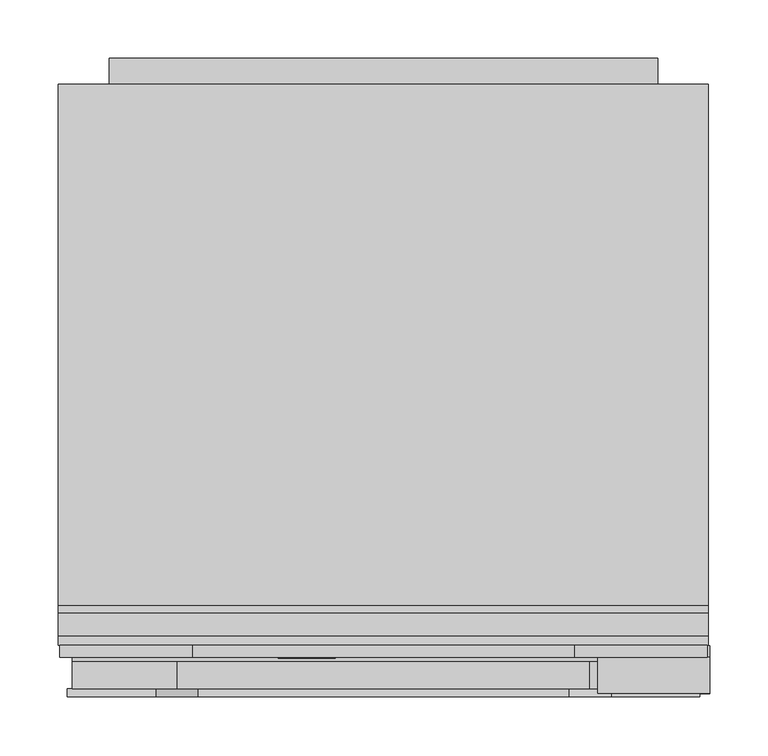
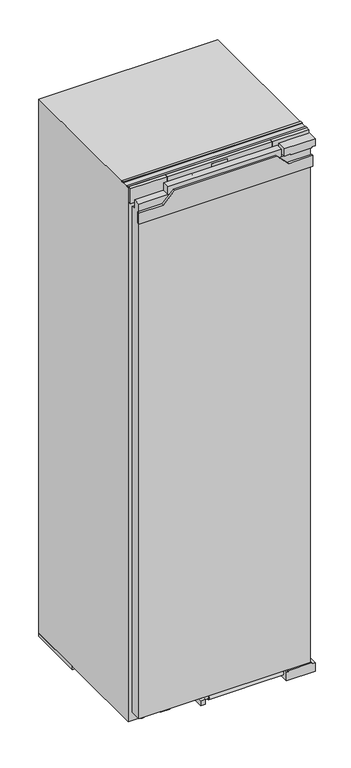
"""IFC4 building model written with IfcOpenShell, lengths in millimetres: proxy geometry, 12444950_CH_K7778C_RE : 36777800_CH_12444950_K7778C_RE."""

from ifc_helpers import new_model, si_unit, point, frame, frame_2d, origin, origin_with_axes, place, context, project, spatial, polyline, circle_curve, ellipse_curve, trimmed, segment, composite_curve, outline, extrude, faceted_brep, source, transform, mapped, element, save
from ifc_brep_helpers import plane_surface, cylinder_surface, revolved_surface, extruded_surface, advanced_brep


def specialty_equipment_7dd4978d(model_context):
    return source(origin(), model_context, "Body", "SolidModel", [
        advanced_brep(
        [(-46.64, 33.0, 1742.896), (-46.64, 33.0, 1743.704), (-41.288, 33.0, 1743.704), (-50.6, 33.0, 1743.704), (-48.4, 33.0, 1741.0), (-41.424, 33.0, 1742.896), (-43.84, 33.0, 1742.896), (-45.744, 33.0, 1742.0), (-46.64, 33.0, 1744.728), (-46.64, 33.0, 1745.6), (-45.272, 33.0, 1745.6), (-45.272, 33.0, 1744.728), (-46.64, 34.0, 1742.896), (-45.744, 34.0, 1742.0), (-43.84, 34.0, 1742.896), (-41.424, 34.0, 1742.896), (-48.4, 34.0, 1741.0), (-50.6, 34.0, 1743.704), (-41.288, 34.0, 1743.704), (-46.64, 34.0, 1743.704), (-46.64, 34.0, 1744.728), (-45.272, 34.0, 1744.728), (-45.272, 34.0, 1745.6), (-46.64, 34.0, 1745.6)],
        [
            (0, 1),
            (1, 2),
            (2, 3, ellipse_curve(frame((-45.944, 33.0, 1743.704), z_axis=(0.0, -1.0, 0.0), x_axis=(-1.0, 0.0, 0.0)), 4.656, 3.848)),
            (3, 4, circle_curve(frame((-47.5039564, 33.0, 1743.976), z_axis=(0.0, -1.0, 0.0), x_axis=(0.0, 0.0, -1.0)), 3.1079688)),
            (4, 5, circle_curve(frame((-46.0372064, 33.0, 1746.088), z_axis=(0.0, -1.0, 0.0), x_axis=(0.0, 0.0, -1.0)), 5.6098607)),
            (5, 6),
            (6, 7, circle_curve(frame((-45.3529412, 33.0, 1743.64), z_axis=(0.0, 1.0, 0.0), x_axis=(0.0, 0.0, -1.0)), 1.6859795)),
            (7, 0, circle_curve(frame((-45.744, 33.0, 1742.896), z_axis=(0.0, 1.0, 0.0), x_axis=(0.0, 0.0, -1.0)), 0.896)),
            (8, 9),
            (9, 10, circle_curve(frame((-45.956, 33.0, 1745.6), z_axis=(0.0, 1.0, 0.0), x_axis=(0.0, 0.0, -1.0)), 0.684)),
            (10, 11),
            (11, 8),
            (12, 13, circle_curve(frame((-45.744, 34.0, 1742.896), z_axis=(0.0, -1.0, 0.0), x_axis=(0.0, 0.0, -1.0)), 0.896)),
            (13, 14, circle_curve(frame((-45.3529412, 34.0, 1743.64), z_axis=(0.0, -1.0, 0.0), x_axis=(0.0, 0.0, -1.0)), 1.6859795)),
            (14, 15),
            (15, 16, circle_curve(frame((-46.0372064, 34.0, 1746.088), z_axis=(0.0, 1.0, 0.0), x_axis=(0.0, 0.0, -1.0)), 5.6098607)),
            (16, 17, circle_curve(frame((-47.5039564, 34.0, 1743.976), z_axis=(0.0, 1.0, 0.0), x_axis=(0.0, 0.0, -1.0)), 3.1079688)),
            (17, 18, ellipse_curve(frame((-45.944, 34.0, 1743.704), z_axis=(0.0, 1.0, 0.0), x_axis=(-1.0, 0.0, 0.0)), 4.656, 3.848)),
            (18, 19),
            (19, 12),
            (20, 21),
            (21, 22),
            (22, 23, circle_curve(frame((-45.956, 34.0, 1745.6), z_axis=(0.0, -1.0, 0.0), x_axis=(0.0, 0.0, -1.0)), 0.684)),
            (23, 20),
            (0, 12),
            (19, 1),
            (18, 2),
            (5, 15),
            (14, 6),
            (17, 3),
            (13, 7),
            (16, 4),
            (8, 20),
            (23, 9),
            (22, 10),
            (21, 11),
        ],
        [
            plane_surface(frame((-46.64, 33.0, 1743.704), z_axis=(0.0, -1.0, 0.0), x_axis=(0.0, 0.0, 1.0))),
            plane_surface(frame((-46.64, 34.0, 1743.704), z_axis=(0.0, 1.0, 0.0), x_axis=(0.0, 0.0, -1.0))),
            plane_surface(frame((-46.64, 33.0, 1742.896), z_axis=(1.0, 0.0, 0.0), x_axis=(0.0, 1.0, 0.0))),
            plane_surface(frame((-46.64, 33.0, 1743.704), z_axis=(0.0, 0.0, -1.0), x_axis=(0.0, 1.0, 0.0))),
            plane_surface(frame((-41.424, 33.0, 1742.896), z_axis=(0.0, 0.0, 1.0), x_axis=(0.0, 1.0, 0.0))),
            extruded_surface(trimmed(ellipse_curve(frame((-45.944, 35.0, 1743.704), z_axis=(0.0, -1.0, 0.0), x_axis=(-1.0, 0.0, 0.0)), 4.656, 3.848), [point((-41.288, 35.0, 1743.704))], [point((-50.6, 35.0, 1743.704))], True, "CARTESIAN"), (0.0, -1.0, 0.0), 1.0),
            revolved_surface(polyline([(-45.3529412, 34.0, 1741.9540205), (-45.3529412, 33.0, 1741.9540205)]), (-45.3529412, 34.0, 1743.64), (0.0, 1.0, 0.0)),
            revolved_surface(polyline([(-45.744, 34.0, 1742.0), (-45.744, 33.0, 1742.0)]), (-45.744, 34.0, 1742.896), (0.0, 1.0, 0.0)),
            cylinder_surface(frame((-47.5039564, 34.0, 1743.976), z_axis=(0.0, -1.0, 0.0), x_axis=(0.0, 0.0, -1.0)), 3.1079688),
            cylinder_surface(frame((-46.0372064, 34.0, 1746.088), z_axis=(0.0, -1.0, 0.0), x_axis=(0.0, 0.0, -1.0)), 5.6098607),
            plane_surface(frame((-46.64, 33.0, 1744.728), z_axis=(1.0, 0.0, 0.0), x_axis=(0.0, 1.0, 0.0))),
            revolved_surface(polyline([(-45.956, 34.0, 1744.916), (-45.956, 33.0, 1744.916)]), (-45.956, 34.0, 1745.6), (0.0, 1.0, 0.0)),
            plane_surface(frame((-45.272, 33.0, 1745.6), z_axis=(-1.0, 0.0, 0.0), x_axis=(0.0, 1.0, 0.0))),
            plane_surface(frame((-45.272, 33.0, 1744.728), z_axis=(0.0, 0.0, 1.0), x_axis=(0.0, 1.0, 0.0))),
        ],
        [
            (0, [[1, 2, 3, 4, 5, 6, 7, 8], [9, 10, 11, 12]]),
            (1, [[13, 14, 15, 16, 17, 18, 19, 20], [21, 22, 23, 24]]),
            (2, [[-1, 25, -20, 26]]),
            (3, [[-2, -26, -19, 27]]),
            (4, [[-6, 28, -15, 29]]),
            (5, [[-3, -27, -18, 30]]),
            (6, [[-7, -29, -14, 31]]),
            (7, [[-8, -31, -13, -25]]),
            (8, [[-4, -30, -17, 32]]),
            (9, [[-5, -32, -16, -28]]),
            (10, [[-9, 33, -24, 34]]),
            (11, [[-10, -34, -23, 35]]),
            (12, [[-11, -35, -22, 36]]),
            (13, [[-12, -36, -21, -33]]),
        ],
    ),
        advanced_brep(
        [(-63.336, 33.0, 1742.896), (-63.336, 33.0, 1743.704), (-57.984, 33.0, 1743.704), (-67.296, 33.0, 1743.704), (-65.096, 33.0, 1741.0), (-58.12, 33.0, 1742.896), (-60.536, 33.0, 1742.896), (-62.44, 33.0, 1742.0), (-63.336, 33.0, 1744.728), (-63.336, 33.0, 1745.6), (-61.968, 33.0, 1745.6), (-61.968, 33.0, 1744.728), (-63.336, 34.0, 1742.896), (-62.44, 34.0, 1742.0), (-60.536, 34.0, 1742.896), (-58.12, 34.0, 1742.896), (-65.096, 34.0, 1741.0), (-67.296, 34.0, 1743.704), (-57.984, 34.0, 1743.704), (-63.336, 34.0, 1743.704), (-63.336, 34.0, 1744.728), (-61.968, 34.0, 1744.728), (-61.968, 34.0, 1745.6), (-63.336, 34.0, 1745.6)],
        [
            (0, 1),
            (1, 2),
            (2, 3, ellipse_curve(frame((-62.64, 33.0, 1743.704), z_axis=(0.0, -1.0, 0.0), x_axis=(-1.0, 0.0, 0.0)), 4.656, 3.848)),
            (3, 4, circle_curve(frame((-64.1999564, 33.0, 1743.976), z_axis=(0.0, -1.0, 0.0), x_axis=(0.0, 0.0, -1.0)), 3.1079688)),
            (4, 5, circle_curve(frame((-62.7332064, 33.0, 1746.088), z_axis=(0.0, -1.0, 0.0), x_axis=(0.0, 0.0, -1.0)), 5.6098607)),
            (5, 6),
            (6, 7, circle_curve(frame((-62.0489412, 33.0, 1743.64), z_axis=(0.0, 1.0, 0.0), x_axis=(0.0, 0.0, -1.0)), 1.6859795)),
            (7, 0, circle_curve(frame((-62.44, 33.0, 1742.896), z_axis=(0.0, 1.0, 0.0), x_axis=(0.0, 0.0, -1.0)), 0.896)),
            (8, 9),
            (9, 10, circle_curve(frame((-62.652, 33.0, 1745.6), z_axis=(0.0, 1.0, 0.0), x_axis=(0.0, 0.0, -1.0)), 0.684)),
            (10, 11),
            (11, 8),
            (12, 13, circle_curve(frame((-62.44, 34.0, 1742.896), z_axis=(0.0, -1.0, 0.0), x_axis=(0.0, 0.0, -1.0)), 0.896)),
            (13, 14, circle_curve(frame((-62.0489412, 34.0, 1743.64), z_axis=(0.0, -1.0, 0.0), x_axis=(0.0, 0.0, -1.0)), 1.6859795)),
            (14, 15),
            (15, 16, circle_curve(frame((-62.7332064, 34.0, 1746.088), z_axis=(0.0, 1.0, 0.0), x_axis=(0.0, 0.0, -1.0)), 5.6098607)),
            (16, 17, circle_curve(frame((-64.1999564, 34.0, 1743.976), z_axis=(0.0, 1.0, 0.0), x_axis=(0.0, 0.0, -1.0)), 3.1079688)),
            (17, 18, ellipse_curve(frame((-62.64, 34.0, 1743.704), z_axis=(0.0, 1.0, 0.0), x_axis=(-1.0, 0.0, 0.0)), 4.656, 3.848)),
            (18, 19),
            (19, 12),
            (20, 21),
            (21, 22),
            (22, 23, circle_curve(frame((-62.652, 34.0, 1745.6), z_axis=(0.0, -1.0, 0.0), x_axis=(0.0, 0.0, -1.0)), 0.684)),
            (23, 20),
            (0, 12),
            (19, 1),
            (18, 2),
            (5, 15),
            (14, 6),
            (17, 3),
            (13, 7),
            (16, 4),
            (8, 20),
            (23, 9),
            (22, 10),
            (21, 11),
        ],
        [
            plane_surface(frame((-63.336, 33.0, 1743.704), z_axis=(0.0, -1.0, 0.0), x_axis=(0.0, 0.0, 1.0))),
            plane_surface(frame((-63.336, 34.0, 1743.704), z_axis=(0.0, 1.0, 0.0), x_axis=(0.0, 0.0, -1.0))),
            plane_surface(frame((-63.336, 33.0, 1742.896), z_axis=(1.0, 0.0, 0.0), x_axis=(0.0, 1.0, 0.0))),
            plane_surface(frame((-63.336, 33.0, 1743.704), z_axis=(0.0, 0.0, -1.0), x_axis=(0.0, 1.0, 0.0))),
            plane_surface(frame((-58.12, 33.0, 1742.896), z_axis=(0.0, 0.0, 1.0), x_axis=(0.0, 1.0, 0.0))),
            extruded_surface(trimmed(ellipse_curve(frame((-62.64, 35.0, 1743.704), z_axis=(0.0, -1.0, 0.0), x_axis=(-1.0, 0.0, 0.0)), 4.656, 3.848), [point((-57.984, 35.0, 1743.704))], [point((-67.296, 35.0, 1743.704))], True, "CARTESIAN"), (0.0, -1.0, 0.0), 1.0),
            revolved_surface(polyline([(-62.0489412, 34.0, 1741.9540205), (-62.0489412, 33.0, 1741.9540205)]), (-62.0489412, 34.0, 1743.64), (0.0, 1.0, 0.0)),
            revolved_surface(polyline([(-62.44, 34.0, 1742.0), (-62.44, 33.0, 1742.0)]), (-62.44, 34.0, 1742.896), (0.0, 1.0, 0.0)),
            cylinder_surface(frame((-64.1999564, 34.0, 1743.976), z_axis=(0.0, -1.0, 0.0), x_axis=(0.0, 0.0, -1.0)), 3.1079688),
            cylinder_surface(frame((-62.7332064, 34.0, 1746.088), z_axis=(0.0, -1.0, 0.0), x_axis=(0.0, 0.0, -1.0)), 5.6098607),
            plane_surface(frame((-63.336, 33.0, 1744.728), z_axis=(1.0, 0.0, 0.0), x_axis=(0.0, 1.0, 0.0))),
            revolved_surface(polyline([(-62.652, 34.0, 1744.916), (-62.652, 33.0, 1744.916)]), (-62.652, 34.0, 1745.6), (0.0, 1.0, 0.0)),
            plane_surface(frame((-61.968, 33.0, 1745.6), z_axis=(-1.0, 0.0, 0.0), x_axis=(0.0, 1.0, 0.0))),
            plane_surface(frame((-61.968, 33.0, 1744.728), z_axis=(0.0, 0.0, 1.0), x_axis=(0.0, 1.0, 0.0))),
        ],
        [
            (0, [[1, 2, 3, 4, 5, 6, 7, 8], [9, 10, 11, 12]]),
            (1, [[13, 14, 15, 16, 17, 18, 19, 20], [21, 22, 23, 24]]),
            (2, [[-1, 25, -20, 26]]),
            (3, [[-2, -26, -19, 27]]),
            (4, [[-6, 28, -15, 29]]),
            (5, [[-3, -27, -18, 30]]),
            (6, [[-7, -29, -14, 31]]),
            (7, [[-8, -31, -13, -25]]),
            (8, [[-4, -30, -17, 32]]),
            (9, [[-5, -32, -16, -28]]),
            (10, [[-9, 33, -24, 34]]),
            (11, [[-10, -34, -23, 35]]),
            (12, [[-11, -35, -22, 36]]),
            (13, [[-12, -36, -21, -33]]),
        ],
    ),
        extrude(outline(polyline([(1748.528, -72.08), (1747.232, -71.472), (1748.496, -68.76), (1749.792, -69.36), (1748.528, -72.08)])), frame((0.0, 33.0, 0.0), z_axis=(0.0, 1.0, 0.0), x_axis=(0.0, 0.0, 1.0)), (0.0, 0.0, 1.0), 1.0),
        extrude(outline(polyline([(1747.056, -74.056), (1745.624, -74.056), (1745.624, -73.104), (1742.344, -73.104), (1742.344, -74.056), (1741.0, -74.056), (1741.0, -67.744), (1742.344, -67.744), (1742.344, -68.672), (1747.056, -68.672), (1747.056, -74.056)])), frame((0.0, 33.0, 0.0), z_axis=(0.0, 1.0, 0.0), x_axis=(0.0, 0.0, 1.0)), (0.0, 0.0, 1.0), 1.0),
        extrude(outline(polyline([(1747.696, -57.536), (1747.696, -56.576), (1742.344, -56.576), (1742.344, -57.536), (1741.0, -57.536), (1741.0, -51.048), (1742.344, -51.048), (1742.344, -52.032), (1749.0, -52.032), (1749.0, -57.536), (1747.696, -57.536)])), frame((0.0, 33.0, 0.0), z_axis=(0.0, 1.0, 0.0), x_axis=(0.0, 0.0, 1.0)), (0.0, 0.0, 1.0), 1.0),
        extrude(outline(polyline([(1747.696, -90.0), (1747.696, -89.032), (1742.344, -89.032), (1742.344, -90.0), (1741.0, -90.0), (1741.0, -86.48), (1742.344, -86.48), (1742.344, -87.44), (1745.7471247, -87.44), (1741.0, -83.864), (1745.8152223, -80.272), (1742.344, -80.272), (1742.344, -81.256), (1741.0, -81.256), (1741.0, -74.872), (1742.344, -74.872), (1742.344, -75.888), (1747.696, -75.888), (1747.696, -74.872), (1749.0, -74.872), (1749.0, -79.744), (1746.0, -82.08), (1749.0, -84.424), (1749.0, -90.0), (1747.696, -90.0)])), frame((0.0, 33.0, 0.0), z_axis=(0.0, 1.0, 0.0), x_axis=(0.0, 0.0, 1.0)), (0.0, 0.0, 1.0), 1.0),
        faceted_brep([(163.5, 34.0, 1770.0), (-163.5, 34.0, 1770.0), (-163.5, 34.0, 1721.0), (163.5, 34.0, 1721.0), (24.5, 34.0, 1763.0), (24.5, 34.0, 1727.0), (-24.5, 34.0, 1727.0), (-24.5, 34.0, 1763.0), (163.5, 44.0, 1770.0), (163.5, 44.0, 1721.0), (-163.5, 44.0, 1721.0), (-163.5, 44.0, 1770.0), (24.5, 35.0, 1763.0), (-24.5, 35.0, 1763.0), (-24.5, 35.0, 1727.0), (24.5, 35.0, 1727.0)], [[[0, 1, 2, 3], [4, 5, 6, 7]], [[8, 9, 10, 11]], [[0, 3, 9, 8]], [[3, 2, 10, 9]], [[2, 1, 11, 10]], [[1, 0, 8, 11]], [[12, 13, 14, 15]], [[12, 15, 5, 4]], [[15, 14, 6, 5]], [[14, 13, 7, 6]], [[13, 12, 4, 7]]]),
        extrude(outline(polyline([(163.5, 44.0), (277.5, 44.0), (277.5, 34.0), (163.5, 34.0), (163.5, 44.0)])), frame((0.0, 0.0, 1721.0), z_axis=(0.0, 0.0, 1.0), x_axis=(1.0, 0.0, 0.0)), (0.0, 0.0, 1.0), 49.0),
        extrude(outline(polyline([(-277.5, 44.0), (-163.5, 44.0), (-163.5, 34.0), (-277.5, 34.0), (-277.5, 44.0)])), frame((0.0, 0.0, 1721.0), z_axis=(0.0, 0.0, 1.0), x_axis=(1.0, 0.0, 0.0)), (0.0, 0.0, 1.0), 49.0),
        extrude(outline(polyline([(-24.5, 35.0), (24.5, 35.0), (24.5, 34.0), (-24.5, 34.0), (-24.5, 35.0)])), frame((0.0, 0.0, 1727.0), z_axis=(0.0, 0.0, 1.0), x_axis=(1.0, 0.0, 0.0)), (0.0, 0.0, 1.0), 36.0),
        extrude(outline(polyline([(1647.0, -235.0), (27.0, -235.0), (27.0, 235.0), (130.0, 235.0), (130.0, 170.0), (160.0, 170.0), (160.0, 235.0), (1647.0, 235.0), (1647.0, -235.0)])), frame((0.0, 525.0, 0.0), z_axis=(0.0, 1.0, 0.0), x_axis=(0.0, 0.0, 1.0)), (0.0, 0.0, 1.0), 22.0),
        extrude(outline(polyline([(-144.929185, 52.0), (-174.0, 52.0), (-194.4885559, 345.0), (-165.4177409, 345.0), (-144.929185, 52.0)])), origin_with_axes(), (0.0, 0.0, 1.0), 10.0),
        extrude(outline(polyline([(144.929185, 52.0), (165.4177409, 345.0), (194.4885559, 345.0), (174.0, 52.0), (144.929185, 52.0)])), origin_with_axes(), (0.0, 0.0, 1.0), 10.0),
        extrude(outline(polyline([(538.651012, 148.8988246), (538.651012, 150.150839), (545.8850603, 150.150839), (545.8850603, 140.1043073), (538.5027529, 140.1043073), (538.5027529, 141.3585545), (544.6152499, 141.3585545), (544.6152499, 144.6556887), (538.967462, 144.6556887), (538.967462, 145.9162842), (544.6270824, 145.9162842), (544.6270824, 148.8988246), (538.651012, 148.8988246)])), frame((193.5, 0.0, 0.0), z_axis=(1.0, 0.0, 0.0), x_axis=(0.0, 1.0, 0.0)), (0.0, 0.0, 1.0), 1.0),
        extrude(outline(polyline([(536.624075, 150.150839), (536.624075, 140.1043073), (530.3334819, 140.1043073), (530.3334819, 141.3573374), (535.3334819, 141.3573374), (535.3334819, 150.150839), (536.624075, 150.150839)])), frame((193.5, 0.0, 0.0), z_axis=(1.0, 0.0, 0.0), x_axis=(0.0, 1.0, 0.0)), (0.0, 0.0, 1.0), 1.0),
        advanced_brep(
        [(232.0, 525.0, 145.0), (217.0, 525.0, 145.0), (232.0, 546.5, 145.0), (217.0, 531.5, 145.0), (194.5, 546.5, 145.0), (194.5, 531.5, 145.0)],
        [
            (0, 1, circle_curve(frame((224.5, 525.0, 145.0), z_axis=(0.0, -1.0, 0.0), x_axis=(-1.0, 0.0, 0.0)), 7.5)),
            (1, 0, circle_curve(frame((224.5, 525.0, 145.0), z_axis=(0.0, -1.0, 0.0), x_axis=(-1.0, 0.0, 0.0)), 7.5)),
            (0, 2),
            (2, 3, ellipse_curve(frame((224.5, 539.0, 145.0), z_axis=(0.7071067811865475, -0.7071067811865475, 0.0), x_axis=(-0.7071067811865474, -0.7071067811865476, 0.0)), 10.6066017, 7.5)),
            (3, 1),
            (3, 2, ellipse_curve(frame((224.5, 539.0, 145.0), z_axis=(0.7071067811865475, -0.7071067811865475, 0.0), x_axis=(-0.7071067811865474, -0.7071067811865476, 0.0)), 10.6066017, 7.5)),
            (4, 5, circle_curve(frame((194.5, 539.0, 145.0), z_axis=(-1.0, 0.0, 0.0), x_axis=(0.0, -1.0, 0.0)), 7.5)),
            (5, 4, circle_curve(frame((194.5, 539.0, 145.0), z_axis=(-1.0, 0.0, 0.0), x_axis=(0.0, -1.0, 0.0)), 7.5)),
            (2, 4),
            (5, 3),
        ],
        [
            plane_surface(frame((224.5, 525.0, 145.0), z_axis=(0.0, -1.0, 0.0), x_axis=(0.0, 0.0, 1.0))),
            cylinder_surface(frame((224.5, 525.0, 145.0), z_axis=(0.0, -1.0, 0.0), x_axis=(-1.0, 0.0, 0.0)), 7.5),
            plane_surface(frame((194.5, 539.0, 145.0), z_axis=(-1.0, 0.0, 0.0), x_axis=(0.0, 0.0, 1.0))),
            cylinder_surface(frame((224.5, 539.0, 145.0), z_axis=(1.0, 0.0, 0.0), x_axis=(0.0, -1.0, 0.0)), 7.5),
        ],
        [
            (0, [[1, 2]]),
            (1, [[-1, 3, 4, 5]]),
            (1, [[-2, -5, 6, -3]]),
            (2, [[7, 8]]),
            (3, [[-4, 9, -8, 10]]),
            (3, [[-6, -10, -7, -9]]),
        ],
    ),
        extrude(outline(polyline([(-34.0, 44.0), (34.0, 44.0), (34.0, 35.0), (-34.0, 35.0), (-34.0, 44.0)])), frame((0.0, 0.0, 13.0), z_axis=(0.0, 0.0, 1.0), x_axis=(1.0, 0.0, 0.0)), (0.0, 0.0, 1.0), 19.0),
        extrude(outline(polyline([(-233.5, 44.0), (-233.5, 487.0), (233.5, 487.0), (233.5, 44.0), (-233.5, 44.0)])), frame((0.0, 0.0, 638.0), z_axis=(0.0, 0.0, 1.0), x_axis=(1.0, 0.0, 0.0)), (0.0, 0.0, 1.0), 3.0),
        extrude(outline(polyline([(-233.5, 179.0), (-233.5, 487.0), (233.5, 487.0), (233.5, 179.0), (-233.5, 179.0)])), frame((0.0, 0.0, 1367.0), z_axis=(0.0, 0.0, 1.0), x_axis=(1.0, 0.0, 0.0)), (0.0, 0.0, 1.0), 325.0),
        extrude(outline(polyline([(-233.5, 349.0), (-233.5, 487.0), (233.5, 487.0), (233.5, 349.0), (-233.5, 349.0)])), frame((0.0, 0.0, 62.0), z_axis=(0.0, 0.0, 1.0), x_axis=(1.0, 0.0, 0.0)), (0.0, 0.0, 1.0), 188.0),
        extrude(outline(composite_curve([segment(trimmed(circle_curve(frame_2d((228.0, 64.0)), 11.0), [point((239.0, 64.0))], [point((217.0, 64.0))], False, "CARTESIAN"), True, "CONTINUOUS"), segment(trimmed(circle_curve(frame_2d((228.0, 64.0)), 11.0), [point((217.0, 64.0))], [point((239.0, 64.0))], False, "CARTESIAN"), True, "CONTINUOUS")], self_intersect=False)), origin_with_axes(), (0.0, 0.0, 1.0), 10.0),
        extrude(outline(composite_curve([segment(trimmed(circle_curve(frame_2d((-228.0, 64.0)), 11.0), [point((-217.0, 64.0))], [point((-239.0, 64.0))], False, "CARTESIAN"), True, "CONTINUOUS"), segment(trimmed(circle_curve(frame_2d((-228.0, 64.0)), 11.0), [point((-239.0, 64.0))], [point((-217.0, 64.0))], False, "CARTESIAN"), True, "CONTINUOUS")], self_intersect=False)), origin_with_axes(), (0.0, 0.0, 1.0), 10.0),
        extrude(outline(polyline([(278.5, 525.0), (278.5, 345.0), (-278.5, 345.0), (-278.5, 525.0), (278.5, 525.0)])), origin_with_axes(), (0.0, 0.0, 1.0), 10.0),
        extrude(outline(polyline([(278.5, 52.0), (278.5, 44.0), (-278.5, 44.0), (-278.5, 52.0), (278.5, 52.0)])), frame((0.0, 0.0, 1767.0), z_axis=(0.0, 0.0, 1.0), x_axis=(1.0, 0.0, 0.0)), (0.0, 0.0, 1.0), 3.0),
        extrude(outline(polyline([(278.5, 78.0), (278.5, 72.0), (-278.5, 72.0), (-278.5, 78.0), (278.5, 78.0)])), frame((0.0, 0.0, 1767.0), z_axis=(0.0, 0.0, 1.0), x_axis=(1.0, 0.0, 0.0)), (0.0, 0.0, 1.0), 3.0),
        faceted_brep([(278.5, 525.0, 1767.0), (-278.5, 525.0, 1767.0), (-278.5, 44.0, 1767.0), (278.5, 44.0, 1767.0), (278.5, 525.0, 10.0), (278.5, 44.0, 10.0), (-278.5, 44.0, 10.0), (-278.5, 525.0, 10.0), (233.5, 44.0, 62.0), (-233.5, 44.0, 62.0), (-233.5, 44.0, 570.0), (-233.5, 44.0, 1692.0), (233.5, 44.0, 1692.0), (233.5, 44.0, 570.0), (233.5, 487.0, 1692.0), (-233.5, 487.0, 1692.0), (-233.5, 487.0, 570.0), (-233.5, 487.0, 62.0), (233.5, 487.0, 62.0), (233.5, 487.0, 570.0)], [[[0, 1, 2, 3]], [[4, 5, 6, 7]], [[1, 0, 4, 7]], [[2, 1, 7, 6]], [[3, 2, 6, 5], [8, 9, 10, 11, 12, 13]], [[0, 3, 5, 4]], [[14, 15, 16, 17, 18, 19]], [[18, 8, 13, 12, 14, 19]], [[18, 17, 9, 8]], [[9, 17, 16, 15, 11, 10]], [[15, 14, 12, 11]]]),
        extrude(outline(polyline([(1672.0, 271.0), (1708.0, 271.0), (1708.0, 195.0), (1744.0, 159.0), (1744.0, -159.0), (1708.0, -195.0), (1708.0, -271.0), (1672.0, -271.0), (1672.0, 271.0)])), frame((0.0, 0.0, 0.0), z_axis=(0.0, 1.0, 0.0), x_axis=(0.0, 0.0, 1.0)), (0.0, 0.0, 1.0), 7.0),
        extrude(outline(composite_curve([segment(trimmed(circle_curve(frame_2d((-65.5, 25.0)), 6.5), [point((-72.0, 25.0))], [point((-59.0, 25.0))], False, "CARTESIAN"), True, "CONTINUOUS"), segment(trimmed(circle_curve(frame_2d((-65.5, 25.0)), 6.5), [point((-59.0, 25.0))], [point((-72.0, 25.0))], False, "CARTESIAN"), True, "CONTINUOUS")], self_intersect=False)), frame((0.0, 0.0, 29.0), z_axis=(0.0, 0.0, 1.0), x_axis=(1.0, 0.0, 0.0)), (0.0, 0.0, 1.0), 9.0),
        extrude(outline(polyline([(-74.0, 42.0), (-59.0, 42.0), (-59.0, 8.0), (-74.0, 8.0), (-74.0, 42.0)])), frame((0.0, 0.0, 14.0), z_axis=(0.0, 0.0, 1.0), x_axis=(1.0, 0.0, 0.0)), (0.0, 0.0, 1.0), 15.0),
        extrude(outline(polyline([(176.5, 7.0), (-176.5, 7.0), (-176.5, 30.0), (176.5, 30.0), (176.5, 7.0)])), frame((0.0, 0.0, 1732.0), z_axis=(0.0, 0.0, 1.0), x_axis=(1.0, 0.0, 0.0)), (0.0, 0.0, 1.0), 25.0),
        extrude(outline(polyline([(7.0, 38.0), (7.0, 1732.0), (30.0, 1732.0), (30.0, 1702.0), (44.0, 1702.0), (44.0, 38.0), (7.0, 38.0)])), frame((-266.5, 0.0, 0.0), z_axis=(1.0, 0.0, 0.0), x_axis=(0.0, 1.0, 0.0)), (0.0, 0.0, 1.0), 533.0),
        extrude(outline(polyline([(34.0, 189.5), (7.0, 189.5), (7.0, 279.5), (34.0, 279.5), (34.0, 268.5), (38.0, 268.5), (38.0, 195.5), (34.0, 195.5), (34.0, 189.5)])), frame((0.0, 3.0, 0.0), z_axis=(0.0, 1.0, 0.0), x_axis=(0.0, 0.0, 1.0)), (0.0, 0.0, 1.0), 41.0),
        extrude(outline(polyline([(1732.0, 203.5), (1732.0, 269.5), (1735.0, 269.5), (1735.0, 279.5), (1759.0, 279.5), (1759.0, 183.5), (1735.0, 183.5), (1735.0, 203.5), (1732.0, 203.5)])), frame((0.0, 3.0, 0.0), z_axis=(0.0, 1.0, 0.0), x_axis=(0.0, 0.0, 1.0)), (0.0, 0.0, 1.0), 31.0),
        extrude(outline(composite_curve([segment(trimmed(circle_curve(frame_2d((25.0, 23.0)), 6.0), [point((25.0, 29.0))], [point((25.0, 17.0))], False, "CARTESIAN"), True, "CONTINUOUS"), segment(trimmed(circle_curve(frame_2d((25.0, 23.0)), 6.0), [point((25.0, 17.0))], [point((25.0, 29.0))], False, "CARTESIAN"), True, "CONTINUOUS")], self_intersect=False)), frame((-59.0, 0.0, 0.0), z_axis=(1.0, 0.0, 0.0), x_axis=(0.0, 1.0, 0.0)), (0.0, 0.0, 1.0), 16.0),
        extrude(outline(composite_curve([segment(trimmed(circle_curve(frame_2d((25.0, 23.0)), 9.0), [point((25.0, 32.0))], [point((25.0, 14.0))], False, "CARTESIAN"), True, "CONTINUOUS"), segment(trimmed(circle_curve(frame_2d((25.0, 23.0)), 9.0), [point((25.0, 14.0))], [point((25.0, 32.0))], False, "CARTESIAN"), True, "CONTINUOUS")], self_intersect=False)), frame((-43.0, 0.0, 0.0), z_axis=(1.0, 0.0, 0.0), x_axis=(0.0, 1.0, 0.0)), (0.0, 0.0, 1.0), 232.5),
    ])


if __name__ == "__main__":
    model = new_model("IFC4")
    model_context = context("Model", 3, world=origin())
    ifc_project = project(units=[si_unit("LENGTHUNIT", "METRE", prefix="MILLI")], contexts=[model_context])
    site = spatial("IfcSite", under=ifc_project)
    building = spatial("IfcBuilding", under=site)
    placement = place(None, origin())
    specialty_equipment_shape = specialty_equipment_7dd4978d(model_context)
    element("IfcBuildingElementProxy", 1, Name="12444950_CH_K7778C_RE : 36777800_CH_12444950_K7778C_RE", ObjectType="12444950_CH_K7778C_RE : 36777800_CH_12444950_K7778C_RE", at=placement, inside=building, context=model_context, shape_type="MappedRepresentation", body=[
        mapped(specialty_equipment_shape, transform((0.0, 0.0, 0.0), x_axis=(1.0, 0.0, 0.0), y_axis=(0.0, 1.0, 0.0), z_axis=(0.0, 0.0, 1.0))),
    ])
    save(model, "model.ifc")
